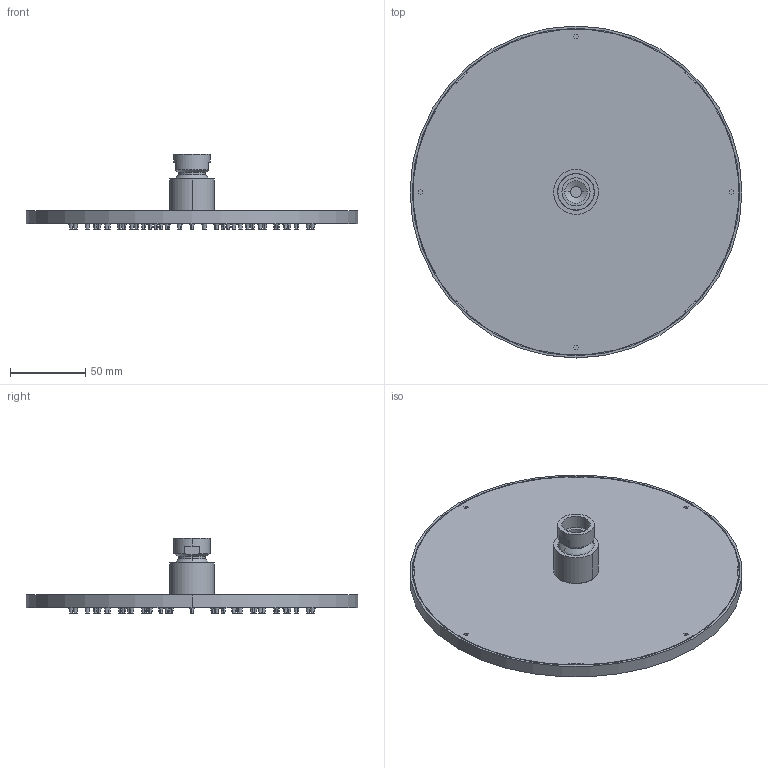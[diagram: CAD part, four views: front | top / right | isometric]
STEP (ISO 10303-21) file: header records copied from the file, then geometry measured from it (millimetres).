
FILE_DESCRIPTION((''),'2;1');
FILE_NAME('90921_ASM','2024-03-14T15:23:51',('carloff'),(''),'CREO PARAMETRIC BY PTC INC, 2022014','CREO PARAMETRIC BY PTC INC, 2022014','');
FILE_SCHEMA(('CONFIG_CONTROL_DESIGN'));
Length unit declared in the file: millimetre
Products named in the file (2): A527210166; 90921_ASM
Assembly tree (1 placements, depth 2):
  90921_ASM
    A527210166
Bounding box: 220 x 220 x 50.05 mm (x, y, z)
Volume: 121460.6 mm3; surface area: 193679 mm2
Topology: 88 solids, 88 shells, 2056 faces, 4467 edges, 2849 vertices
Faces by surface type: cylinder 886, torus 672, plane 474, cone 22, sphere 2
Entity records: 58361 total; most frequent: DIRECTION 12034, CARTESIAN_POINT 9419, ORIENTED_EDGE 8934, AXIS2_PLACEMENT_3D 5512, EDGE_CURVE 4467, CIRCLE 3453, VERTEX_POINT 2849, EDGE_LOOP 2660
